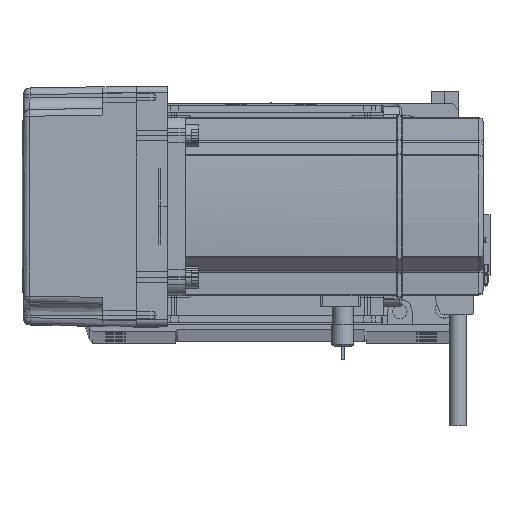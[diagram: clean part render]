
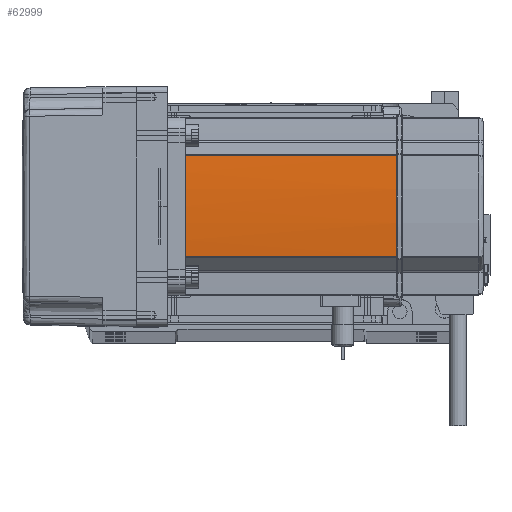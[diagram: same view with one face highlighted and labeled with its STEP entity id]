
A CAD part, top view. The second image highlights one B-rep face of the part: STEP entity #62999.
In plain terms, the highlighted cylindrical face has radius 270 mm (diameter 540 mm), a partial arc.
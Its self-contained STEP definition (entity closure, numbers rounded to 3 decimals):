
#65 = CARTESIAN_POINT ( 'NONE',  ( 40., 0.127, 134. ) ) ;
#542 = DIRECTION ( 'NONE',  ( -1., 0., 0. ) ) ;
#1415 = B_SPLINE_CURVE_WITH_KNOTS ( 'NONE', 3,
 ( #58759, #54315, #65659, #15155 ),
 .UNSPECIFIED., .F., .F.,
 ( 4, 4 ),
 ( 0., 1. ),
 .UNSPECIFIED. ) ;
#1659 = VERTEX_POINT ( 'NONE', #41237 ) ;
#1967 = CARTESIAN_POINT ( 'NONE',  ( 39.042, -22.724, 58. ) ) ;
#2249 = DIRECTION ( 'NONE',  ( 0., 0., 1. ) ) ;
#2757 = EDGE_CURVE ( 'NONE', #3690, #8244, #48349, .T. ) ;
#3155 = AXIS2_PLACEMENT_3D ( 'NONE', #43929, #17915, #23036 ) ;
#3224 = AXIS2_PLACEMENT_3D ( 'NONE', #19422, #34329, #44560 ) ;
#3679 = CARTESIAN_POINT ( 'NONE',  ( 40., -0.127, 134. ) ) ;
#3690 = VERTEX_POINT ( 'NONE', #3679 ) ;
#5149 = CARTESIAN_POINT ( 'NONE',  ( 39.042, 22.724, 134. ) ) ;
#7135 = CARTESIAN_POINT ( 'NONE',  ( 39.042, 22.724, 58. ) ) ;
#7561 = DIRECTION ( 'NONE',  ( 0., 0., -1. ) ) ;
#8244 = VERTEX_POINT ( 'NONE', #12268 ) ;
#10757 = DIRECTION ( 'NONE',  ( 0., 0., -1. ) ) ;
#11099 = DIRECTION ( 'NONE',  ( -1., 0., 0. ) ) ;
#12268 = CARTESIAN_POINT ( 'NONE',  ( 39.042, -22.724, 134. ) ) ;
#13428 = CIRCLE ( 'NONE', #59663, 270. ) ;
#13898 = ORIENTED_EDGE ( 'NONE', *, *, #15870, .T. ) ;
#15155 = CARTESIAN_POINT ( 'NONE',  ( 40., 0.127, 134. ) ) ;
#15616 = CARTESIAN_POINT ( 'NONE',  ( -230., 0., 39. ) ) ;
#15870 = EDGE_CURVE ( 'NONE', #34276, #22417, #55768, .T. ) ;
#16330 = EDGE_CURVE ( 'NONE', #27665, #34276, #57223, .T. ) ;
#16822 = DIRECTION ( 'NONE',  ( 0., 0., -1. ) ) ;
#17146 = FACE_OUTER_BOUND ( 'NONE', #39867, .T. ) ;
#17584 = EDGE_CURVE ( 'NONE', #8244, #1659, #60348, .T. ) ;
#17915 = DIRECTION ( 'NONE',  ( 0., 0., -1. ) ) ;
#19422 = CARTESIAN_POINT ( 'NONE',  ( -230., 0., 134. ) ) ;
#21208 = AXIS2_PLACEMENT_3D ( 'NONE', #63351, #7561, #11099 ) ;
#22417 = VERTEX_POINT ( 'NONE', #65 ) ;
#23036 = DIRECTION ( 'NONE',  ( -1., 0., 0. ) ) ;
#27665 = VERTEX_POINT ( 'NONE', #44423 ) ;
#32394 = EDGE_CURVE ( 'NONE', #3690, #22417, #1415, .T. ) ;
#34276 = VERTEX_POINT ( 'NONE', #5149 ) ;
#34329 = DIRECTION ( 'NONE',  ( 0., 0., -1. ) ) ;
#37914 = ORIENTED_EDGE ( 'NONE', *, *, #17584, .T. ) ;
#39867 = EDGE_LOOP ( 'NONE', ( #37914, #47821, #45977, #13898, #62061, #52054 ) ) ;
#41237 = CARTESIAN_POINT ( 'NONE',  ( 39.042, -22.724, 39. ) ) ;
#42073 = VECTOR ( 'NONE', #2249, 1000. ) ;
#43380 = CYLINDRICAL_SURFACE ( 'NONE', #21208, 270. ) ;
#43929 = CARTESIAN_POINT ( 'NONE',  ( -230., 0., 134. ) ) ;
#44423 = CARTESIAN_POINT ( 'NONE',  ( 39.042, 22.724, 39. ) ) ;
#44560 = DIRECTION ( 'NONE',  ( -1., 0., 0. ) ) ;
#45977 = ORIENTED_EDGE ( 'NONE', *, *, #16330, .T. ) ;
#46744 = VECTOR ( 'NONE', #16822, 1000. ) ;
#47821 = ORIENTED_EDGE ( 'NONE', *, *, #55623, .F. ) ;
#48349 = CIRCLE ( 'NONE', #3224, 270. ) ;
#52054 = ORIENTED_EDGE ( 'NONE', *, *, #2757, .T. ) ;
#54315 = CARTESIAN_POINT ( 'NONE',  ( 40., -0.042, 134. ) ) ;
#55623 = EDGE_CURVE ( 'NONE', #27665, #1659, #13428, .T. ) ;
#55768 = CIRCLE ( 'NONE', #3155, 270. ) ;
#57223 = LINE ( 'NONE', #7135, #42073 ) ;
#58759 = CARTESIAN_POINT ( 'NONE',  ( 40., -0.127, 134. ) ) ;
#59663 = AXIS2_PLACEMENT_3D ( 'NONE', #15616, #10757, #542 ) ;
#60348 = LINE ( 'NONE', #1967, #46744 ) ;
#62061 = ORIENTED_EDGE ( 'NONE', *, *, #32394, .F. ) ;
#62999 = ADVANCED_FACE ( 'NONE', ( #17146 ), #43380, .T. ) ;
#63351 = CARTESIAN_POINT ( 'NONE',  ( -230., 0., 58. ) ) ;
#65659 = CARTESIAN_POINT ( 'NONE',  ( 40., 0.042, 134. ) ) ;
